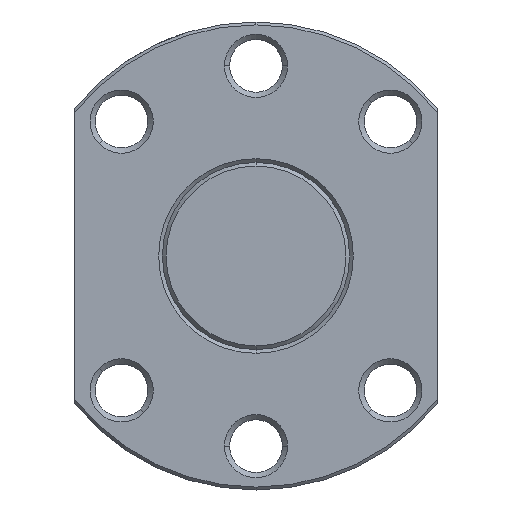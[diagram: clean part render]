
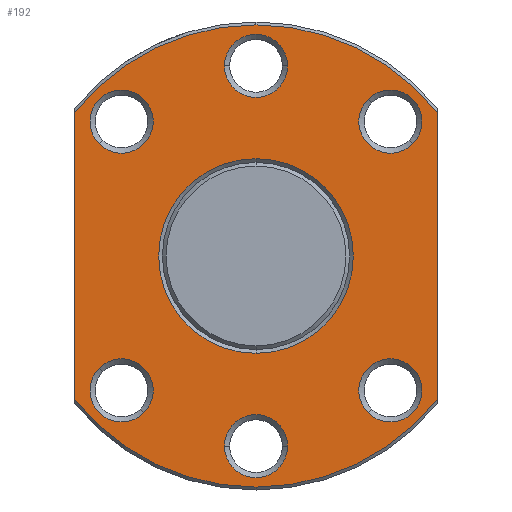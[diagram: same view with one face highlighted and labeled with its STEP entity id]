
A CAD part, left-side view. The second image highlights one B-rep face of the part: STEP entity #192.
In plain terms, the highlighted planar face has unit normal (-1, 0, 0).
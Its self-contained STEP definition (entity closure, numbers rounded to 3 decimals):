
#192=ADVANCED_FACE('',(#348,#349,#350,#351,#352,#353,#354,#355),#356,.T.);
#348=FACE_BOUND('',#521,.T.);
#349=FACE_OUTER_BOUND('',#522,.T.);
#350=FACE_BOUND('',#523,.T.);
#351=FACE_BOUND('',#524,.T.);
#352=FACE_BOUND('',#525,.T.);
#353=FACE_BOUND('',#526,.T.);
#354=FACE_BOUND('',#527,.T.);
#355=FACE_BOUND('',#528,.T.);
#356=PLANE('',#529);
#521=EDGE_LOOP('',(#1051,#1052));
#522=EDGE_LOOP('',(#1053,#1054,#1055,#1056,#1057,#1058));
#523=EDGE_LOOP('',(#1059,#1060));
#524=EDGE_LOOP('',(#1061,#1062));
#525=EDGE_LOOP('',(#1063,#1064));
#526=EDGE_LOOP('',(#1065,#1066));
#527=EDGE_LOOP('',(#1067,#1068));
#528=EDGE_LOOP('',(#1069,#1070));
#529=AXIS2_PLACEMENT_3D('',#1071,#1072,#1073);
#1051=ORIENTED_EDGE('',*,*,#1256,.T.);
#1052=ORIENTED_EDGE('',*,*,#1236,.T.);
#1053=ORIENTED_EDGE('',*,*,#1257,.T.);
#1054=ORIENTED_EDGE('',*,*,#1297,.F.);
#1055=ORIENTED_EDGE('',*,*,#1164,.F.);
#1056=ORIENTED_EDGE('',*,*,#1278,.T.);
#1057=ORIENTED_EDGE('',*,*,#1226,.F.);
#1058=ORIENTED_EDGE('',*,*,#1277,.F.);
#1059=ORIENTED_EDGE('',*,*,#1281,.T.);
#1060=ORIENTED_EDGE('',*,*,#1216,.T.);
#1061=ORIENTED_EDGE('',*,*,#1284,.T.);
#1062=ORIENTED_EDGE('',*,*,#1206,.T.);
#1063=ORIENTED_EDGE('',*,*,#1287,.T.);
#1064=ORIENTED_EDGE('',*,*,#1196,.T.);
#1065=ORIENTED_EDGE('',*,*,#1290,.T.);
#1066=ORIENTED_EDGE('',*,*,#1186,.T.);
#1067=ORIENTED_EDGE('',*,*,#1293,.T.);
#1068=ORIENTED_EDGE('',*,*,#1176,.T.);
#1069=ORIENTED_EDGE('',*,*,#1296,.T.);
#1070=ORIENTED_EDGE('',*,*,#1166,.T.);
#1071=CARTESIAN_POINT('',(25.0,0.0,19.755));
#1072=DIRECTION('',(-1.0,0.0,0.));
#1073=DIRECTION('',(0.,0.0,-1.0));
#1164=EDGE_CURVE('',#1362,#1360,#1364,.T.);
#1166=EDGE_CURVE('',#1368,#1365,#1369,.T.);
#1176=EDGE_CURVE('',#1386,#1383,#1387,.T.);
#1186=EDGE_CURVE('',#1404,#1401,#1405,.T.);
#1196=EDGE_CURVE('',#1422,#1419,#1423,.T.);
#1206=EDGE_CURVE('',#1440,#1437,#1441,.T.);
#1216=EDGE_CURVE('',#1458,#1455,#1459,.T.);
#1226=EDGE_CURVE('',#1473,#1476,#1477,.T.);
#1236=EDGE_CURVE('',#1494,#1491,#1495,.T.);
#1256=EDGE_CURVE('',#1491,#1494,#1525,.T.);
#1257=EDGE_CURVE('',#1526,#1527,#1528,.T.);
#1277=EDGE_CURVE('',#1526,#1473,#1554,.T.);
#1278=EDGE_CURVE('',#1362,#1476,#1555,.T.);
#1281=EDGE_CURVE('',#1455,#1458,#1558,.T.);
#1284=EDGE_CURVE('',#1437,#1440,#1561,.T.);
#1287=EDGE_CURVE('',#1419,#1422,#1564,.T.);
#1290=EDGE_CURVE('',#1401,#1404,#1567,.T.);
#1293=EDGE_CURVE('',#1383,#1386,#1570,.T.);
#1296=EDGE_CURVE('',#1365,#1368,#1573,.T.);
#1297=EDGE_CURVE('',#1360,#1527,#1574,.T.);
#1360=VERTEX_POINT('',#1661);
#1362=VERTEX_POINT('',#1664);
#1364=CIRCLE('',#1675,39.51);
#1365=VERTEX_POINT('',#1676);
#1368=VERTEX_POINT('',#1680);
#1369=CIRCLE('',#1681,5.4);
#1383=VERTEX_POINT('',#1700);
#1386=VERTEX_POINT('',#1704);
#1387=CIRCLE('',#1705,5.4);
#1401=VERTEX_POINT('',#1724);
#1404=VERTEX_POINT('',#1728);
#1405=CIRCLE('',#1729,5.4);
#1419=VERTEX_POINT('',#1748);
#1422=VERTEX_POINT('',#1752);
#1423=CIRCLE('',#1753,5.4);
#1437=VERTEX_POINT('',#1772);
#1440=VERTEX_POINT('',#1776);
#1441=CIRCLE('',#1777,5.4);
#1455=VERTEX_POINT('',#1796);
#1458=VERTEX_POINT('',#1800);
#1459=CIRCLE('',#1801,5.4);
#1473=VERTEX_POINT('',#1820);
#1476=VERTEX_POINT('',#1824);
#1477=CIRCLE('',#1825,39.51);
#1491=VERTEX_POINT('',#1860);
#1494=VERTEX_POINT('',#1864);
#1495=CIRCLE('',#1865,16.64);
#1525=CIRCLE('',#1971,16.64);
#1526=VERTEX_POINT('',#1972);
#1527=VERTEX_POINT('',#1973);
#1528=LINE('',#1974,#1975);
#1554=CIRCLE('',#2041,39.51);
#1555=LINE('',#2042,#2043);
#1558=CIRCLE('',#2046,5.4);
#1561=CIRCLE('',#2049,5.4);
#1564=CIRCLE('',#2052,5.4);
#1567=CIRCLE('',#2055,5.4);
#1570=CIRCLE('',#2058,5.4);
#1573=CIRCLE('',#2061,5.4);
#1574=CIRCLE('',#2062,39.51);
#1661=CARTESIAN_POINT('',(25.0,0.,-39.51));
#1664=CARTESIAN_POINT('',(25.0,-31.0,-24.496));
#1675=AXIS2_PLACEMENT_3D('',#2133,#2134,#2135);
#1676=CARTESIAN_POINT('',(25.0,-19.163,26.799));
#1680=CARTESIAN_POINT('',(25.0,-26.799,19.163));
#1681=AXIS2_PLACEMENT_3D('',#2137,#2138,#2139);
#1700=CARTESIAN_POINT('',(25.0,5.4,32.5));
#1704=CARTESIAN_POINT('',(25.0,-5.4,32.5));
#1705=AXIS2_PLACEMENT_3D('',#2155,#2156,#2157);
#1724=CARTESIAN_POINT('',(25.0,26.799,19.163));
#1728=CARTESIAN_POINT('',(25.0,19.163,26.799));
#1729=AXIS2_PLACEMENT_3D('',#2173,#2174,#2175);
#1748=CARTESIAN_POINT('',(25.0,19.163,-26.799));
#1752=CARTESIAN_POINT('',(25.0,26.799,-19.163));
#1753=AXIS2_PLACEMENT_3D('',#2191,#2192,#2193);
#1772=CARTESIAN_POINT('',(25.0,-5.4,-32.5));
#1776=CARTESIAN_POINT('',(25.0,5.4,-32.5));
#1777=AXIS2_PLACEMENT_3D('',#2209,#2210,#2211);
#1796=CARTESIAN_POINT('',(25.0,-26.799,-19.163));
#1800=CARTESIAN_POINT('',(25.0,-19.163,-26.799));
#1801=AXIS2_PLACEMENT_3D('',#2227,#2228,#2229);
#1820=CARTESIAN_POINT('',(25.0,0.,39.51));
#1824=CARTESIAN_POINT('',(25.0,-31.0,24.496));
#1825=AXIS2_PLACEMENT_3D('',#2245,#2246,#2247);
#1860=CARTESIAN_POINT('',(25.0,0.0,16.64));
#1864=CARTESIAN_POINT('',(25.0,0.,-16.64));
#1865=AXIS2_PLACEMENT_3D('',#2261,#2262,#2263);
#1971=AXIS2_PLACEMENT_3D('',#2297,#2298,#2299);
#1972=CARTESIAN_POINT('',(25.0,31.0,24.496));
#1973=CARTESIAN_POINT('',(25.0,31.0,-24.496));
#1974=CARTESIAN_POINT('',(25.0,31.0,9.878));
#1975=VECTOR('',#2300,1.0);
#2041=AXIS2_PLACEMENT_3D('',#2338,#2339,#2340);
#2042=CARTESIAN_POINT('',(25.0,-31.0,9.878));
#2043=VECTOR('',#2341,1.0);
#2046=AXIS2_PLACEMENT_3D('',#2348,#2349,#2350);
#2049=AXIS2_PLACEMENT_3D('',#2357,#2358,#2359);
#2052=AXIS2_PLACEMENT_3D('',#2366,#2367,#2368);
#2055=AXIS2_PLACEMENT_3D('',#2375,#2376,#2377);
#2058=AXIS2_PLACEMENT_3D('',#2384,#2385,#2386);
#2061=AXIS2_PLACEMENT_3D('',#2393,#2394,#2395);
#2062=AXIS2_PLACEMENT_3D('',#2396,#2397,#2398);
#2133=CARTESIAN_POINT('',(25.0,0.0,0.0));
#2134=DIRECTION('',(1.0,0.0,-0.0));
#2135=DIRECTION('',(0.0,0.0,1.0));
#2137=CARTESIAN_POINT('',(25.0,-22.981,22.981));
#2138=DIRECTION('',(1.0,0.0,0.));
#2139=DIRECTION('',(0.,0.707,0.707));
#2155=CARTESIAN_POINT('',(25.0,0.0,32.5));
#2156=DIRECTION('',(1.0,0.0,0.));
#2157=DIRECTION('',(0.0,1.0,0.0));
#2173=CARTESIAN_POINT('',(25.0,22.981,22.981));
#2174=DIRECTION('',(1.0,0.0,0.));
#2175=DIRECTION('',(0.,0.707,-0.707));
#2191=CARTESIAN_POINT('',(25.0,22.981,-22.981));
#2192=DIRECTION('',(1.0,0.0,0.));
#2193=DIRECTION('',(0.,-0.707,-0.707));
#2209=CARTESIAN_POINT('',(25.0,0.0,-32.5));
#2210=DIRECTION('',(1.0,0.0,0.));
#2211=DIRECTION('',(0.0,-1.0,0.0));
#2227=CARTESIAN_POINT('',(25.0,-22.981,-22.981));
#2228=DIRECTION('',(1.0,0.0,0.));
#2229=DIRECTION('',(0.,-0.707,0.707));
#2245=CARTESIAN_POINT('',(25.0,0.0,0.0));
#2246=DIRECTION('',(1.0,0.0,-0.0));
#2247=DIRECTION('',(0.0,0.0,1.0));
#2261=CARTESIAN_POINT('',(25.0,0.0,0.0));
#2262=DIRECTION('',(1.0,0.0,0.));
#2263=DIRECTION('',(0.,0.0,1.0));
#2297=CARTESIAN_POINT('',(25.0,0.0,0.0));
#2298=DIRECTION('',(1.0,0.0,0.));
#2299=DIRECTION('',(0.,0.0,1.0));
#2300=DIRECTION('',(0.,0.0,-1.0));
#2338=CARTESIAN_POINT('',(25.0,0.0,0.0));
#2339=DIRECTION('',(1.0,0.0,-0.0));
#2340=DIRECTION('',(0.0,0.0,1.0));
#2341=DIRECTION('',(0.,0.0,1.0));
#2348=CARTESIAN_POINT('',(25.0,-22.981,-22.981));
#2349=DIRECTION('',(1.0,0.0,0.));
#2350=DIRECTION('',(0.,-0.707,0.707));
#2357=CARTESIAN_POINT('',(25.0,0.0,-32.5));
#2358=DIRECTION('',(1.0,0.0,0.));
#2359=DIRECTION('',(0.0,-1.0,0.0));
#2366=CARTESIAN_POINT('',(25.0,22.981,-22.981));
#2367=DIRECTION('',(1.0,0.0,0.));
#2368=DIRECTION('',(0.,-0.707,-0.707));
#2375=CARTESIAN_POINT('',(25.0,22.981,22.981));
#2376=DIRECTION('',(1.0,0.0,0.));
#2377=DIRECTION('',(0.,0.707,-0.707));
#2384=CARTESIAN_POINT('',(25.0,0.0,32.5));
#2385=DIRECTION('',(1.0,0.0,0.));
#2386=DIRECTION('',(0.0,1.0,0.0));
#2393=CARTESIAN_POINT('',(25.0,-22.981,22.981));
#2394=DIRECTION('',(1.0,0.0,0.));
#2395=DIRECTION('',(0.,0.707,0.707));
#2396=CARTESIAN_POINT('',(25.0,0.0,0.0));
#2397=DIRECTION('',(1.0,0.0,-0.0));
#2398=DIRECTION('',(0.0,0.0,1.0));
